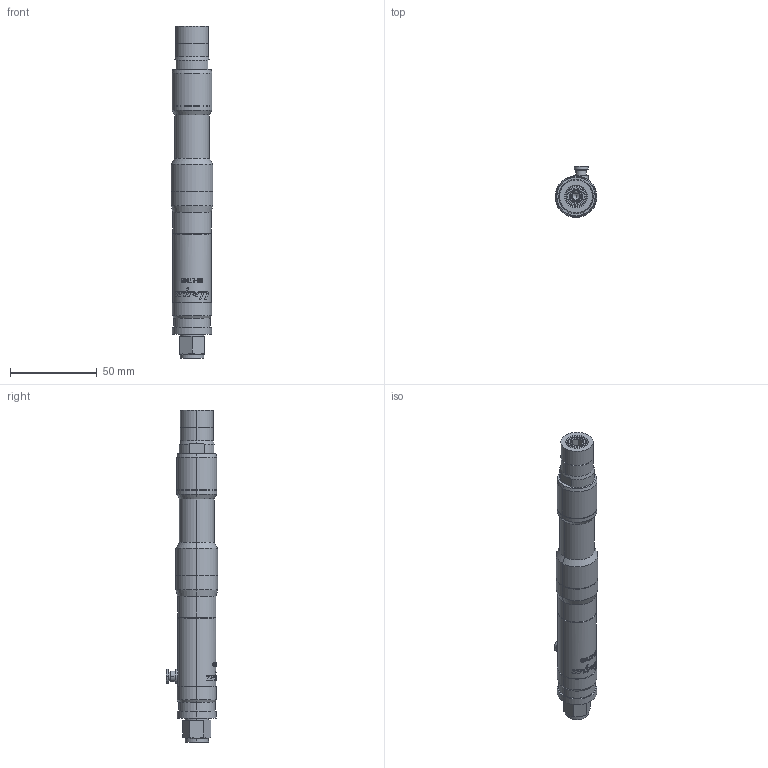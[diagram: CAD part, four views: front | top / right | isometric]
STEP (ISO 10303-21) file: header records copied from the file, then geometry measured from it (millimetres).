
FILE_DESCRIPTION (( 'STEP AP203' ), '1' );
FILE_NAME ('US-LT10B.STEP', '2006-03-22T03:03:18', ( '' ), ( '' ), 'SwSTEP 2.0', 'SolidWorks 2003240', '' );
FILE_SCHEMA (( 'CONFIG_CONTROL_DESIGN' ));
Length unit declared in the file: millimetre
Products named in the file (6): 4592101_US-LT10B_蹬怮椔; 9810020_US-LT10B_蹬怮椔; US-LT10B; 4733196_US-LT10B_蹬怮椔; 4735674_US-LT10B_蹬怮椔; 4730252_US-LT10B_蹬怮椔
Assembly tree (5 placements, depth 2):
  US-LT10B
    9810020_US-LT10B_蹬怮椔
    4730252_US-LT10B_蹬怮椔
    4735674_US-LT10B_蹬怮椔
    4733196_US-LT10B_蹬怮椔
    4592101_US-LT10B_蹬怮椔
Bounding box: 24 x 29.5 x 191 mm (x, y, z)
Volume: 66166 mm3; surface area: 19366.7 mm2
Topology: 5 solids, 5 shells, 359 faces, 891 edges, 578 vertices
Faces by surface type: cylinder 133, plane 131, bspline 63, cone 30, sphere 2
Entity records: 14977 total; most frequent: CARTESIAN_POINT 6402, ORIENTED_EDGE 1768, DIRECTION 1452, EDGE_CURVE 884, VERTEX_POINT 575, AXIS2_PLACEMENT_3D 544, EDGE_LOOP 403, VECTOR 364
